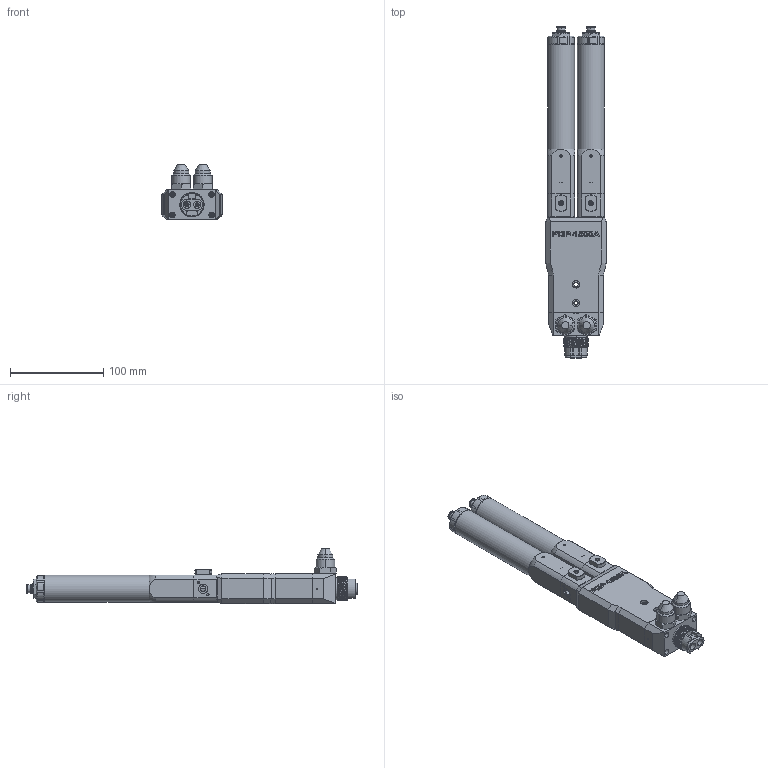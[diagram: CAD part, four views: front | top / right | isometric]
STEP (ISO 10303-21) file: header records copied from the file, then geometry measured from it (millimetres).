
FILE_DESCRIPTION (( 'STEP AP214' ), '1' );
FILE_NAME ('PDPM-1500FA.STEP', '2024-10-11T12:31:47', ( '' ), ( '' ), 'SwSTEP 2.0', 'SolidWorks 2024', '' );
FILE_SCHEMA (( 'AUTOMOTIVE_DESIGN' ));
Length unit declared in the file: millimetre
Products named in the file (1): PDPM-1500FA
Bounding box: 65 x 356 x 59.3 mm (x, y, z)
Volume: 534551.6 mm3; surface area: 128452.2 mm2
Topology: 12 solids, 12 shells, 1574 faces, 3986 edges, 2536 vertices
Faces by surface type: plane 770, cylinder 454, cone 317, bspline 13, torus 12, sphere 8
Full cylindrical faces by diameter (mm): 29 x2
Entity records: 55190 total; most frequent: CARTESIAN_POINT 17192, ORIENTED_EDGE 7896, DIRECTION 7868, EDGE_CURVE 3948, AXIS2_PLACEMENT_3D 2819, VERTEX_POINT 2536, VECTOR 2230, LINE 2230
